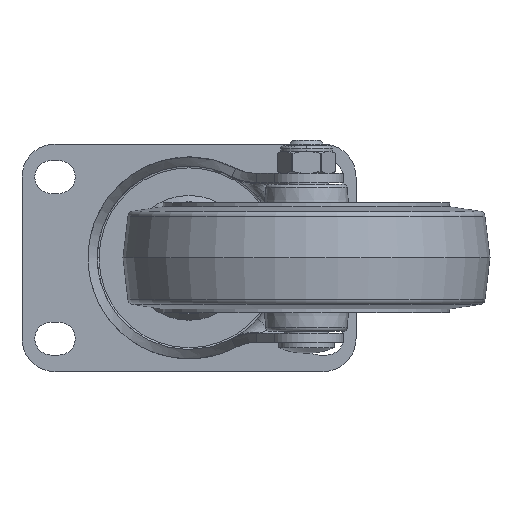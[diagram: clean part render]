
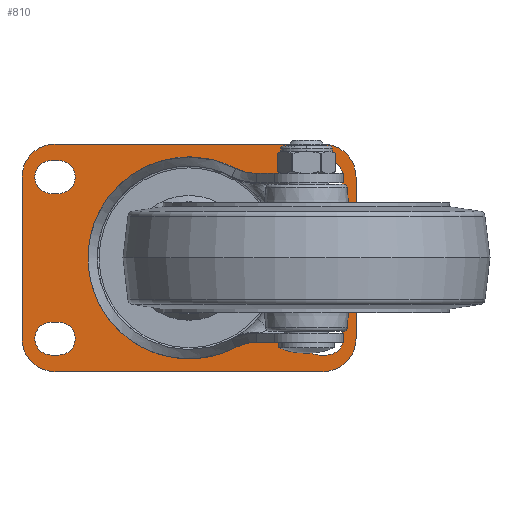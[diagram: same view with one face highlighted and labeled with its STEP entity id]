
A CAD part, front view. The second image highlights one B-rep face of the part: STEP entity #810.
In plain terms, the highlighted planar face has unit normal (0, -1, 0).
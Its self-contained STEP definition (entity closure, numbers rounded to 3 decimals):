
#1=CARTESIAN_POINT('',(-36.5,7.3,22.));
#2=DIRECTION('',(0.,1.,0.));
#3=DIRECTION('',(-1.,0.,0.));
#4=AXIS2_PLACEMENT_3D('',#1,#2,#3);
#6=DIRECTION('',(1.,0.,0.));
#7=VECTOR('',#6,73.);
#8=CARTESIAN_POINT('',(-36.5,7.3,31.));
#9=LINE('',#8,#7);
#10=CARTESIAN_POINT('',(36.5,7.3,22.));
#11=DIRECTION('',(0.,1.,0.));
#12=DIRECTION('',(0.,0.,1.));
#13=AXIS2_PLACEMENT_3D('',#10,#11,#12);
#15=DIRECTION('',(0.,0.,-1.));
#16=VECTOR('',#15,44.);
#17=CARTESIAN_POINT('',(45.5,7.3,22.));
#18=LINE('',#17,#16);
#19=CARTESIAN_POINT('',(36.5,7.3,-22.));
#20=DIRECTION('',(0.,1.,0.));
#21=DIRECTION('',(1.,0.,0.));
#22=AXIS2_PLACEMENT_3D('',#19,#20,#21);
#24=DIRECTION('',(-1.,0.,0.));
#25=VECTOR('',#24,73.);
#26=CARTESIAN_POINT('',(36.5,7.3,-31.));
#27=LINE('',#26,#25);
#28=CARTESIAN_POINT('',(-36.5,7.3,-22.));
#29=DIRECTION('',(0.,1.,0.));
#30=DIRECTION('',(0.,0.,-1.));
#31=AXIS2_PLACEMENT_3D('',#28,#29,#30);
#33=DIRECTION('',(0.,0.,1.));
#34=VECTOR('',#33,44.);
#35=CARTESIAN_POINT('',(-45.5,7.3,-22.));
#36=LINE('',#35,#34);
#37=DIRECTION('',(1.,0.,0.));
#38=VECTOR('',#37,2.);
#39=CARTESIAN_POINT('',(-37.5,7.3,-26.5));
#40=LINE('',#39,#38);
#41=CARTESIAN_POINT('',(-35.5,7.3,-22.));
#42=DIRECTION('',(0.,-1.,0.));
#43=DIRECTION('',(0.,0.,-1.));
#44=AXIS2_PLACEMENT_3D('',#41,#42,#43);
#46=CARTESIAN_POINT('',(-35.5,7.3,-22.));
#47=DIRECTION('',(0.,-1.,0.));
#48=DIRECTION('',(1.,0.,0.));
#49=AXIS2_PLACEMENT_3D('',#46,#47,#48);
#51=DIRECTION('',(-1.,0.,0.));
#52=VECTOR('',#51,2.);
#53=CARTESIAN_POINT('',(-35.5,7.3,-17.5));
#54=LINE('',#53,#52);
#55=CARTESIAN_POINT('',(-37.5,7.3,-22.));
#56=DIRECTION('',(0.,-1.,0.));
#57=DIRECTION('',(0.,0.,1.));
#58=AXIS2_PLACEMENT_3D('',#55,#56,#57);
#60=CARTESIAN_POINT('',(-37.5,7.3,-22.));
#61=DIRECTION('',(0.,-1.,0.));
#62=DIRECTION('',(-1.,0.,0.));
#63=AXIS2_PLACEMENT_3D('',#60,#61,#62);
#65=CARTESIAN_POINT('',(37.5,7.3,-22.));
#66=DIRECTION('',(0.,-1.,0.));
#67=DIRECTION('',(0.,0.,-1.));
#68=AXIS2_PLACEMENT_3D('',#65,#66,#67);
#70=CARTESIAN_POINT('',(37.5,7.3,-22.));
#71=DIRECTION('',(0.,-1.,0.));
#72=DIRECTION('',(1.,0.,0.));
#73=AXIS2_PLACEMENT_3D('',#70,#71,#72);
#75=DIRECTION('',(-1.,0.,0.));
#76=VECTOR('',#75,2.);
#77=CARTESIAN_POINT('',(37.5,7.3,-17.5));
#78=LINE('',#77,#76);
#79=CARTESIAN_POINT('',(35.5,7.3,-22.));
#80=DIRECTION('',(0.,-1.,0.));
#81=DIRECTION('',(0.,0.,1.));
#82=AXIS2_PLACEMENT_3D('',#79,#80,#81);
#84=CARTESIAN_POINT('',(35.5,7.3,-22.));
#85=DIRECTION('',(0.,-1.,0.));
#86=DIRECTION('',(-1.,0.,0.));
#87=AXIS2_PLACEMENT_3D('',#84,#85,#86);
#89=DIRECTION('',(1.,0.,0.));
#90=VECTOR('',#89,2.);
#91=CARTESIAN_POINT('',(35.5,7.3,-26.5));
#92=LINE('',#91,#90);
#93=CARTESIAN_POINT('',(-37.5,7.3,22.));
#94=DIRECTION('',(0.,-1.,0.));
#95=DIRECTION('',(0.,0.,1.));
#96=AXIS2_PLACEMENT_3D('',#93,#94,#95);
#98=CARTESIAN_POINT('',(-37.5,7.3,22.));
#99=DIRECTION('',(0.,-1.,0.));
#100=DIRECTION('',(-1.,0.,0.));
#101=AXIS2_PLACEMENT_3D('',#98,#99,#100);
#103=DIRECTION('',(1.,0.,0.));
#104=VECTOR('',#103,2.);
#105=CARTESIAN_POINT('',(-37.5,7.3,17.5));
#106=LINE('',#105,#104);
#107=CARTESIAN_POINT('',(-35.5,7.3,22.));
#108=DIRECTION('',(0.,-1.,0.));
#109=DIRECTION('',(0.,0.,-1.));
#110=AXIS2_PLACEMENT_3D('',#107,#108,#109);
#112=CARTESIAN_POINT('',(-35.5,7.3,22.));
#113=DIRECTION('',(0.,-1.,0.));
#114=DIRECTION('',(1.,0.,0.));
#115=AXIS2_PLACEMENT_3D('',#112,#113,#114);
#117=DIRECTION('',(-1.,0.,0.));
#118=VECTOR('',#117,2.);
#119=CARTESIAN_POINT('',(-35.5,7.3,26.5));
#120=LINE('',#119,#118);
#121=DIRECTION('',(1.,0.,0.));
#122=VECTOR('',#121,2.);
#123=CARTESIAN_POINT('',(35.5,7.3,17.5));
#124=LINE('',#123,#122);
#125=CARTESIAN_POINT('',(37.5,7.3,22.));
#126=DIRECTION('',(0.,-1.,0.));
#127=DIRECTION('',(0.,0.,-1.));
#128=AXIS2_PLACEMENT_3D('',#125,#126,#127);
#130=CARTESIAN_POINT('',(37.5,7.3,22.));
#131=DIRECTION('',(0.,-1.,0.));
#132=DIRECTION('',(1.,0.,0.));
#133=AXIS2_PLACEMENT_3D('',#130,#131,#132);
#135=DIRECTION('',(-1.,0.,0.));
#136=VECTOR('',#135,2.);
#137=CARTESIAN_POINT('',(37.5,7.3,26.5));
#138=LINE('',#137,#136);
#139=CARTESIAN_POINT('',(35.5,7.3,22.));
#140=DIRECTION('',(0.,-1.,0.));
#141=DIRECTION('',(0.,0.,1.));
#142=AXIS2_PLACEMENT_3D('',#139,#140,#141);
#144=CARTESIAN_POINT('',(35.5,7.3,22.));
#145=DIRECTION('',(0.,-1.,0.));
#146=DIRECTION('',(-1.,0.,0.));
#147=AXIS2_PLACEMENT_3D('',#144,#145,#146);
#149=CARTESIAN_POINT('',(0.,7.3,0.));
#150=DIRECTION('',(0.,-1.,0.));
#151=DIRECTION('',(-1.,0.,0.));
#152=AXIS2_PLACEMENT_3D('',#149,#150,#151);
#154=CARTESIAN_POINT('',(0.,7.3,0.));
#155=DIRECTION('',(0.,-1.,0.));
#156=DIRECTION('',(1.,0.,0.));
#157=AXIS2_PLACEMENT_3D('',#154,#155,#156);
#557=CARTESIAN_POINT('',(-45.5,7.3,22.));
#558=CARTESIAN_POINT('',(-36.5,7.3,31.));
#559=VERTEX_POINT('',#557);
#560=VERTEX_POINT('',#558);
#561=CARTESIAN_POINT('',(36.5,7.3,31.));
#562=VERTEX_POINT('',#561);
#563=CARTESIAN_POINT('',(45.5,7.3,22.));
#564=VERTEX_POINT('',#563);
#565=CARTESIAN_POINT('',(45.5,7.3,-22.));
#566=VERTEX_POINT('',#565);
#567=CARTESIAN_POINT('',(36.5,7.3,-31.));
#568=VERTEX_POINT('',#567);
#569=CARTESIAN_POINT('',(-36.5,7.3,-31.));
#570=VERTEX_POINT('',#569);
#571=CARTESIAN_POINT('',(-45.5,7.3,-22.));
#572=VERTEX_POINT('',#571);
#573=CARTESIAN_POINT('',(-37.5,7.3,-26.5));
#574=CARTESIAN_POINT('',(-35.5,7.3,-26.5));
#575=VERTEX_POINT('',#573);
#576=VERTEX_POINT('',#574);
#577=CARTESIAN_POINT('',(-31.,7.3,-22.));
#578=VERTEX_POINT('',#577);
#579=CARTESIAN_POINT('',(-35.5,7.3,-17.5));
#580=VERTEX_POINT('',#579);
#581=CARTESIAN_POINT('',(-37.5,7.3,-17.5));
#582=VERTEX_POINT('',#581);
#583=CARTESIAN_POINT('',(-42.,7.3,-22.));
#584=VERTEX_POINT('',#583);
#585=CARTESIAN_POINT('',(37.5,7.3,-26.5));
#586=CARTESIAN_POINT('',(42.,7.3,-22.));
#587=VERTEX_POINT('',#585);
#588=VERTEX_POINT('',#586);
#589=CARTESIAN_POINT('',(37.5,7.3,-17.5));
#590=VERTEX_POINT('',#589);
#591=CARTESIAN_POINT('',(35.5,7.3,-17.5));
#592=VERTEX_POINT('',#591);
#593=CARTESIAN_POINT('',(31.,7.3,-22.));
#594=VERTEX_POINT('',#593);
#595=CARTESIAN_POINT('',(35.5,7.3,-26.5));
#596=VERTEX_POINT('',#595);
#597=CARTESIAN_POINT('',(-37.5,7.3,26.5));
#598=CARTESIAN_POINT('',(-42.,7.3,22.));
#599=VERTEX_POINT('',#597);
#600=VERTEX_POINT('',#598);
#601=CARTESIAN_POINT('',(-37.5,7.3,17.5));
#602=VERTEX_POINT('',#601);
#603=CARTESIAN_POINT('',(-35.5,7.3,17.5));
#604=VERTEX_POINT('',#603);
#605=CARTESIAN_POINT('',(-31.,7.3,22.));
#606=VERTEX_POINT('',#605);
#607=CARTESIAN_POINT('',(-35.5,7.3,26.5));
#608=VERTEX_POINT('',#607);
#609=CARTESIAN_POINT('',(35.5,7.3,17.5));
#610=CARTESIAN_POINT('',(37.5,7.3,17.5));
#611=VERTEX_POINT('',#609);
#612=VERTEX_POINT('',#610);
#613=CARTESIAN_POINT('',(42.,7.3,22.));
#614=VERTEX_POINT('',#613);
#615=CARTESIAN_POINT('',(37.5,7.3,26.5));
#616=VERTEX_POINT('',#615);
#617=CARTESIAN_POINT('',(35.5,7.3,26.5));
#618=VERTEX_POINT('',#617);
#619=CARTESIAN_POINT('',(31.,7.3,22.));
#620=VERTEX_POINT('',#619);
#621=CARTESIAN_POINT('',(-16.751,7.3,0.));
#622=CARTESIAN_POINT('',(16.751,7.3,0.));
#623=VERTEX_POINT('',#621);
#624=VERTEX_POINT('',#622);
#725=CARTESIAN_POINT('',(0.,7.3,0.));
#726=DIRECTION('',(0.,-1.,0.));
#727=DIRECTION('',(-1.,0.,0.));
#728=AXIS2_PLACEMENT_3D('',#725,#726,#727);
#729=PLANE('',#728);
#731=ORIENTED_EDGE('',*,*,#730,.T.);
#733=ORIENTED_EDGE('',*,*,#732,.T.);
#735=ORIENTED_EDGE('',*,*,#734,.T.);
#737=ORIENTED_EDGE('',*,*,#736,.T.);
#739=ORIENTED_EDGE('',*,*,#738,.T.);
#741=ORIENTED_EDGE('',*,*,#740,.T.);
#743=ORIENTED_EDGE('',*,*,#742,.T.);
#745=ORIENTED_EDGE('',*,*,#744,.T.);
#746=EDGE_LOOP('',(#731,#733,#735,#737,#739,#741,#743,#745));
#747=FACE_OUTER_BOUND('',#746,.F.);
#749=ORIENTED_EDGE('',*,*,#748,.T.);
#751=ORIENTED_EDGE('',*,*,#750,.T.);
#753=ORIENTED_EDGE('',*,*,#752,.T.);
#755=ORIENTED_EDGE('',*,*,#754,.T.);
#757=ORIENTED_EDGE('',*,*,#756,.T.);
#759=ORIENTED_EDGE('',*,*,#758,.T.);
#760=EDGE_LOOP('',(#749,#751,#753,#755,#757,#759));
#761=FACE_BOUND('',#760,.F.);
#763=ORIENTED_EDGE('',*,*,#762,.T.);
#765=ORIENTED_EDGE('',*,*,#764,.T.);
#767=ORIENTED_EDGE('',*,*,#766,.T.);
#769=ORIENTED_EDGE('',*,*,#768,.T.);
#771=ORIENTED_EDGE('',*,*,#770,.T.);
#773=ORIENTED_EDGE('',*,*,#772,.T.);
#774=EDGE_LOOP('',(#763,#765,#767,#769,#771,#773));
#775=FACE_BOUND('',#774,.F.);
#777=ORIENTED_EDGE('',*,*,#776,.T.);
#779=ORIENTED_EDGE('',*,*,#778,.T.);
#781=ORIENTED_EDGE('',*,*,#780,.T.);
#783=ORIENTED_EDGE('',*,*,#782,.T.);
#785=ORIENTED_EDGE('',*,*,#784,.T.);
#787=ORIENTED_EDGE('',*,*,#786,.T.);
#788=EDGE_LOOP('',(#777,#779,#781,#783,#785,#787));
#789=FACE_BOUND('',#788,.F.);
#791=ORIENTED_EDGE('',*,*,#790,.T.);
#793=ORIENTED_EDGE('',*,*,#792,.T.);
#795=ORIENTED_EDGE('',*,*,#794,.T.);
#797=ORIENTED_EDGE('',*,*,#796,.T.);
#799=ORIENTED_EDGE('',*,*,#798,.T.);
#801=ORIENTED_EDGE('',*,*,#800,.T.);
#802=EDGE_LOOP('',(#791,#793,#795,#797,#799,#801));
#803=FACE_BOUND('',#802,.F.);
#805=ORIENTED_EDGE('',*,*,#804,.T.);
#807=ORIENTED_EDGE('',*,*,#806,.T.);
#808=EDGE_LOOP('',(#805,#807));
#809=FACE_BOUND('',#808,.F.);
#5=CIRCLE('',#4,9.);
#14=CIRCLE('',#13,9.);
#23=CIRCLE('',#22,9.);
#32=CIRCLE('',#31,9.);
#45=CIRCLE('',#44,4.5);
#50=CIRCLE('',#49,4.5);
#59=CIRCLE('',#58,4.5);
#64=CIRCLE('',#63,4.5);
#69=CIRCLE('',#68,4.5);
#74=CIRCLE('',#73,4.5);
#83=CIRCLE('',#82,4.5);
#88=CIRCLE('',#87,4.5);
#97=CIRCLE('',#96,4.5);
#102=CIRCLE('',#101,4.5);
#111=CIRCLE('',#110,4.5);
#116=CIRCLE('',#115,4.5);
#129=CIRCLE('',#128,4.5);
#134=CIRCLE('',#133,4.5);
#143=CIRCLE('',#142,4.5);
#148=CIRCLE('',#147,4.5);
#153=CIRCLE('',#152,16.751);
#158=CIRCLE('',#157,16.751);
#730=EDGE_CURVE('',#559,#560,#5,.T.);
#732=EDGE_CURVE('',#560,#562,#9,.T.);
#734=EDGE_CURVE('',#562,#564,#14,.T.);
#736=EDGE_CURVE('',#564,#566,#18,.T.);
#738=EDGE_CURVE('',#566,#568,#23,.T.);
#740=EDGE_CURVE('',#568,#570,#27,.T.);
#742=EDGE_CURVE('',#570,#572,#32,.T.);
#744=EDGE_CURVE('',#572,#559,#36,.T.);
#748=EDGE_CURVE('',#575,#576,#40,.T.);
#750=EDGE_CURVE('',#576,#578,#45,.T.);
#752=EDGE_CURVE('',#578,#580,#50,.T.);
#754=EDGE_CURVE('',#580,#582,#54,.T.);
#756=EDGE_CURVE('',#582,#584,#59,.T.);
#758=EDGE_CURVE('',#584,#575,#64,.T.);
#762=EDGE_CURVE('',#587,#588,#69,.T.);
#764=EDGE_CURVE('',#588,#590,#74,.T.);
#766=EDGE_CURVE('',#590,#592,#78,.T.);
#768=EDGE_CURVE('',#592,#594,#83,.T.);
#770=EDGE_CURVE('',#594,#596,#88,.T.);
#772=EDGE_CURVE('',#596,#587,#92,.T.);
#776=EDGE_CURVE('',#599,#600,#97,.T.);
#778=EDGE_CURVE('',#600,#602,#102,.T.);
#780=EDGE_CURVE('',#602,#604,#106,.T.);
#782=EDGE_CURVE('',#604,#606,#111,.T.);
#784=EDGE_CURVE('',#606,#608,#116,.T.);
#786=EDGE_CURVE('',#608,#599,#120,.T.);
#790=EDGE_CURVE('',#611,#612,#124,.T.);
#792=EDGE_CURVE('',#612,#614,#129,.T.);
#794=EDGE_CURVE('',#614,#616,#134,.T.);
#796=EDGE_CURVE('',#616,#618,#138,.T.);
#798=EDGE_CURVE('',#618,#620,#143,.T.);
#800=EDGE_CURVE('',#620,#611,#148,.T.);
#804=EDGE_CURVE('',#623,#624,#153,.T.);
#806=EDGE_CURVE('',#624,#623,#158,.T.);
#810=ADVANCED_FACE('',(#747,#761,#775,#789,#803,#809),#729,.T.);
